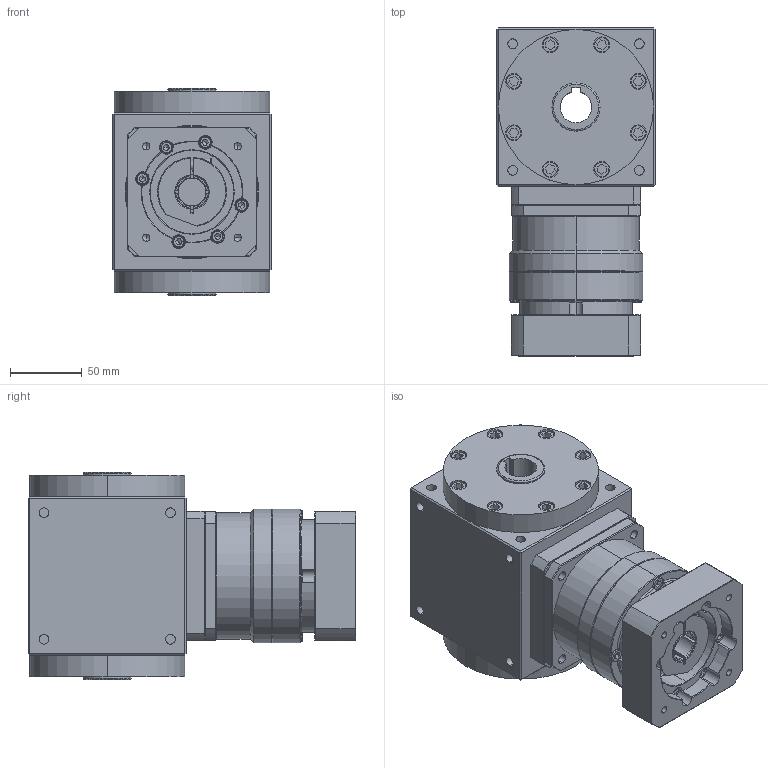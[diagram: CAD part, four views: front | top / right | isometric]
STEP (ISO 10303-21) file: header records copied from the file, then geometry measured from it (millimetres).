
FILE_DESCRIPTION (( 'STEP AP203' ), '1' );
FILE_NAME ('AT110-FH-L1 19-70-90-M6.STEP', '2024-12-20T00:47:16', ( '' ), ( '' ), 'SwSTEP 2.0', 'SolidWorks 2021', '' );
FILE_SCHEMA (( 'CONFIG_CONTROL_DESIGN' ));
Length unit declared in the file: millimetre
Products named in the file (3): AT110-FH; VRB-090-L1-S2-P1 19-70-90-M6; AT110-FH-L1 19-70-90-M6
Assembly tree (2 placements, depth 2):
  AT110-FH-L1 19-70-90-M6
    AT110-FH
    VRB-090-L1-S2-P1 19-70-90-M6
Bounding box: 110 x 228 x 144 mm (x, y, z)
Volume: 2270463.5 mm3; surface area: 244085.8 mm2
Topology: 32 solids, 32 shells, 1293 faces, 3140 edges, 1962 vertices
Faces by surface type: plane 570, cylinder 500, cone 181, torus 38, bspline 4
Entity records: 39715 total; most frequent: CARTESIAN_POINT 8965, DIRECTION 6659, ORIENTED_EDGE 6156, EDGE_CURVE 3078, AXIS2_PLACEMENT_3D 2573, VERTEX_POINT 1962, VECTOR 1513, LINE 1513
